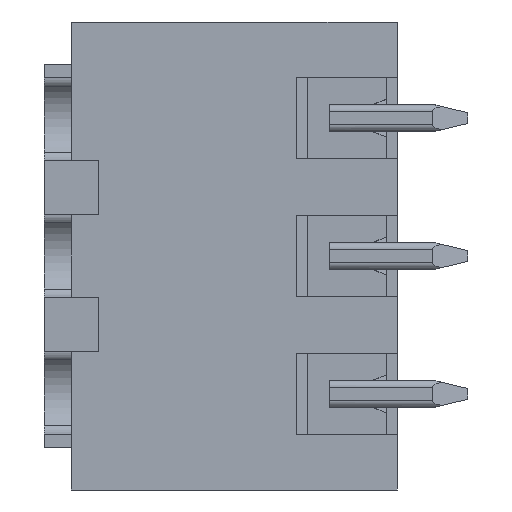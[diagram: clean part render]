
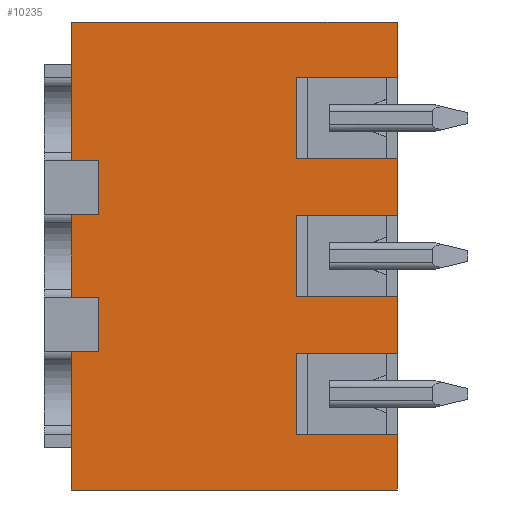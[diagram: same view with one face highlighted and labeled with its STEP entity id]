
A CAD part, left-side view. The second image highlights one B-rep face of the part: STEP entity #10235.
In plain terms, the highlighted planar face has unit normal (-1, 0, 0).
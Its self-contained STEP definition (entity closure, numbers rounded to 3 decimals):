
#1868=DIRECTION('',(0.,0.,-1.));
#1869=VECTOR('',#1868,2.04);
#1870=CARTESIAN_POINT('',(0.,2.6,-2.04));
#1871=LINE('',#1870,#1869);
#1880=DIRECTION('',(0.,0.,-1.));
#1881=VECTOR('',#1880,2.04);
#1882=CARTESIAN_POINT('',(0.,2.6,-17.24));
#1883=LINE('',#1882,#1881);
#1960=DIRECTION('',(0.,0.,1.));
#1961=VECTOR('',#1960,2.08);
#1962=CARTESIAN_POINT('',(0.,2.6,-9.16));
#1963=LINE('',#1962,#1961);
#1972=DIRECTION('',(0.,0.,-1.));
#1973=VECTOR('',#1972,14.08);
#1974=CARTESIAN_POINT('',(0.,14.6,-3.62));
#1975=LINE('',#1974,#1973);
#1976=DIRECTION('',(0.,0.,1.));
#1977=VECTOR('',#1976,1.58);
#1978=CARTESIAN_POINT('',(0.,14.6,-3.62));
#1979=LINE('',#1978,#1977);
#1980=DIRECTION('',(0.,0.,1.));
#1981=VECTOR('',#1980,1.58);
#1982=CARTESIAN_POINT('',(0.,14.6,-19.28));
#1983=LINE('',#1982,#1981);
#1992=DIRECTION('',(0.,-1.,0.));
#1993=VECTOR('',#1992,12.);
#1994=CARTESIAN_POINT('',(0.,14.6,-2.04));
#1995=LINE('',#1994,#1993);
#2016=DIRECTION('',(0.,1.,0.));
#2017=VECTOR('',#2016,3.7);
#2018=CARTESIAN_POINT('',(0.,2.6,-4.08));
#2019=LINE('',#2018,#2017);
#3434=DIRECTION('',(0.,-1.,0.));
#3435=VECTOR('',#3434,3.7);
#3436=CARTESIAN_POINT('',(0.,6.3,-7.08));
#3437=LINE('',#3436,#3435);
#3442=DIRECTION('',(0.,0.,-1.));
#3443=VECTOR('',#3442,3.);
#3444=CARTESIAN_POINT('',(0.,6.3,-4.08));
#3445=LINE('',#3444,#3443);
#3458=DIRECTION('',(0.,1.,0.));
#3459=VECTOR('',#3458,3.7);
#3460=CARTESIAN_POINT('',(0.,2.6,-9.16));
#3461=LINE('',#3460,#3459);
#5021=DIRECTION('',(0.,-1.,0.));
#5022=VECTOR('',#5021,3.7);
#5023=CARTESIAN_POINT('',(0.,6.3,-12.16));
#5024=LINE('',#5023,#5022);
#5033=DIRECTION('',(0.,0.,1.));
#5034=VECTOR('',#5033,2.08);
#5035=CARTESIAN_POINT('',(0.,2.6,-14.24));
#5036=LINE('',#5035,#5034);
#5061=DIRECTION('',(0.,1.,0.));
#5062=VECTOR('',#5061,3.7);
#5063=CARTESIAN_POINT('',(0.,2.6,-14.24));
#5064=LINE('',#5063,#5062);
#6009=DIRECTION('',(0.,-1.,0.));
#6010=VECTOR('',#6009,3.7);
#6011=CARTESIAN_POINT('',(0.,6.3,-17.24));
#6012=LINE('',#6011,#6010);
#6033=DIRECTION('',(0.,0.,-1.));
#6034=VECTOR('',#6033,3.);
#6035=CARTESIAN_POINT('',(0.,6.3,-14.24));
#6036=LINE('',#6035,#6034);
#6037=DIRECTION('',(0.,0.,-1.));
#6038=VECTOR('',#6037,3.);
#6039=CARTESIAN_POINT('',(0.,6.3,-9.16));
#6040=LINE('',#6039,#6038);
#6053=DIRECTION('',(0.,1.,0.));
#6054=VECTOR('',#6053,12.);
#6055=CARTESIAN_POINT('',(0.,2.6,-19.28));
#6056=LINE('',#6055,#6054);
#6165=CARTESIAN_POINT('',(0.,14.6,-19.28));
#6167=VERTEX_POINT('',#6165);
#6175=CARTESIAN_POINT('',(0.,2.6,-14.24));
#6176=CARTESIAN_POINT('',(0.,6.3,-14.24));
#6177=VERTEX_POINT('',#6175);
#6178=VERTEX_POINT('',#6176);
#6179=CARTESIAN_POINT('',(0.,6.3,-17.24));
#6180=VERTEX_POINT('',#6179);
#6181=CARTESIAN_POINT('',(0.,2.6,-17.24));
#6182=VERTEX_POINT('',#6181);
#6183=CARTESIAN_POINT('',(0.,2.6,-19.28));
#6184=VERTEX_POINT('',#6183);
#6560=CARTESIAN_POINT('',(0.,2.6,-9.16));
#6561=CARTESIAN_POINT('',(0.,6.3,-9.16));
#6562=VERTEX_POINT('',#6560);
#6563=VERTEX_POINT('',#6561);
#6564=CARTESIAN_POINT('',(0.,6.3,-12.16));
#6565=VERTEX_POINT('',#6564);
#6566=CARTESIAN_POINT('',(0.,2.6,-12.16));
#6567=VERTEX_POINT('',#6566);
#6728=CARTESIAN_POINT('',(0.,14.6,-2.04));
#6730=VERTEX_POINT('',#6728);
#6731=CARTESIAN_POINT('',(0.,2.6,-2.04));
#6732=VERTEX_POINT('',#6731);
#6733=CARTESIAN_POINT('',(0.,2.6,-4.08));
#6734=VERTEX_POINT('',#6733);
#6735=CARTESIAN_POINT('',(0.,6.3,-4.08));
#6736=VERTEX_POINT('',#6735);
#6737=CARTESIAN_POINT('',(0.,6.3,-7.08));
#6738=VERTEX_POINT('',#6737);
#6739=CARTESIAN_POINT('',(0.,2.6,-7.08));
#6740=VERTEX_POINT('',#6739);
#7524=CARTESIAN_POINT('',(0.,14.6,-17.7));
#7525=VERTEX_POINT('',#7524);
#7531=CARTESIAN_POINT('',(0.,14.6,-3.62));
#7533=VERTEX_POINT('',#7531);
#10198=CARTESIAN_POINT('',(0.,14.6,-19.28));
#10199=DIRECTION('',(-1.,0.,0.));
#10200=DIRECTION('',(0.,-1.,0.));
#10201=AXIS2_PLACEMENT_3D('',#10198,#10199,#10200);
#10202=PLANE('',#10201);
#10203=ORIENTED_EDGE('',*,*,#7868,.F.);
#10204=ORIENTED_EDGE('',*,*,#8827,.T.);
#10206=ORIENTED_EDGE('',*,*,#10205,.T.);
#10207=ORIENTED_EDGE('',*,*,#9994,.T.);
#10209=ORIENTED_EDGE('',*,*,#10208,.T.);
#10211=ORIENTED_EDGE('',*,*,#10210,.T.);
#10213=ORIENTED_EDGE('',*,*,#10212,.T.);
#10214=ORIENTED_EDGE('',*,*,#10188,.F.);
#10216=ORIENTED_EDGE('',*,*,#10215,.T.);
#10218=ORIENTED_EDGE('',*,*,#10217,.T.);
#10220=ORIENTED_EDGE('',*,*,#10219,.T.);
#10222=ORIENTED_EDGE('',*,*,#10221,.F.);
#10224=ORIENTED_EDGE('',*,*,#10223,.T.);
#10226=ORIENTED_EDGE('',*,*,#10225,.T.);
#10228=ORIENTED_EDGE('',*,*,#10227,.T.);
#10229=ORIENTED_EDGE('',*,*,#10001,.T.);
#10231=ORIENTED_EDGE('',*,*,#10230,.T.);
#10232=ORIENTED_EDGE('',*,*,#8808,.T.);
#10233=EDGE_LOOP('',(#10203,#10204,#10206,#10207,#10209,#10211,#10213,#10214,
#10216,#10218,#10220,#10222,#10224,#10226,#10228,#10229,#10231,#10232));
#10234=FACE_OUTER_BOUND('',#10233,.F.);
#10235=ADVANCED_FACE('',(#10234),#10202,.T.);
#7868=EDGE_CURVE('',#7533,#7525,#1975,.T.);
#8808=EDGE_CURVE('',#6167,#7525,#1983,.T.);
#8827=EDGE_CURVE('',#7533,#6730,#1979,.T.);
#9994=EDGE_CURVE('',#6732,#6734,#1871,.T.);
#10001=EDGE_CURVE('',#6182,#6184,#1883,.T.);
#10188=EDGE_CURVE('',#6562,#6740,#1963,.T.);
#10205=EDGE_CURVE('',#6730,#6732,#1995,.T.);
#10208=EDGE_CURVE('',#6734,#6736,#2019,.T.);
#10210=EDGE_CURVE('',#6736,#6738,#3445,.T.);
#10212=EDGE_CURVE('',#6738,#6740,#3437,.T.);
#10215=EDGE_CURVE('',#6562,#6563,#3461,.T.);
#10217=EDGE_CURVE('',#6563,#6565,#6040,.T.);
#10219=EDGE_CURVE('',#6565,#6567,#5024,.T.);
#10221=EDGE_CURVE('',#6177,#6567,#5036,.T.);
#10223=EDGE_CURVE('',#6177,#6178,#5064,.T.);
#10225=EDGE_CURVE('',#6178,#6180,#6036,.T.);
#10227=EDGE_CURVE('',#6180,#6182,#6012,.T.);
#10230=EDGE_CURVE('',#6184,#6167,#6056,.T.);
